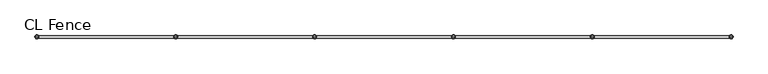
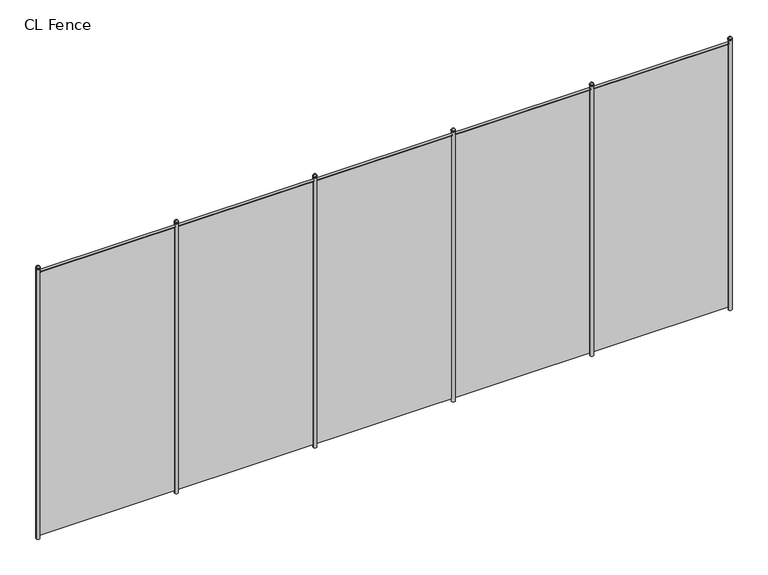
"""IFC4 building model written with IfcOpenShell, lengths in millimetres: geographic element geometry, Alambrado : CL Fence."""

import ifcopenshell
import ifcopenshell.guid

model = None  # the IFC model being written
_history = None  # IfcOwnerHistory: only IFC2X3 demands one
_inside = {}  # id of a spatial element -> (the spatial element, [elements in it])
_under = {}  # id of a project, library or spatial element -> (it, [spatial elements below it])
_declared = {}  # id of a project -> (the project, [libraries it declares])
_typed = {}  # id of a type object -> (the type object, [elements of that type])
_made_of = {}  # id of a material, layer set ... -> (it, [elements and type objects made of it])


def new_model(schema):
    """Start an empty IFC model of exactly this schema.

    Asked for "IFC4X3", IfcOpenShell would pick the latest addendum, in which some entities
    have other attributes; the version numbers below select the first issue.
    IFC2X3 requires an IfcOwnerHistory on every rooted entity: one is made here for all.
    """
    global model, _history
    if schema == "IFC4X3":
        model = ifcopenshell.file(schema_version=(4, 3, 0, 0))
    else:
        model = ifcopenshell.file(schema=schema)
    _inside.clear()
    _under.clear()
    _declared.clear()
    _typed.clear()
    _made_of.clear()
    _history = None
    if model.schema == "IFC2X3":
        org = make("IfcOrganization", Name="unknown")
        user = make(
            "IfcPersonAndOrganization",
            ThePerson=make("IfcPerson", FamilyName="unknown"),
            TheOrganization=org,
        )
        app = make(
            "IfcApplication",
            ApplicationDeveloper=org,
            Version="unknown",
            ApplicationFullName="unknown",
            ApplicationIdentifier="unknown",
        )
        _history = make(
            "IfcOwnerHistory",
            OwningUser=user,
            OwningApplication=app,
            ChangeAction="ADDED",
            CreationDate=0,
        )
    return model


def make(cls, **values):
    """One entity of the class cls with the attributes given. An attribute that is None is left unset."""
    return model.create_entity(
        cls, **{name: value for name, value in values.items() if value is not None}
    )


def rooted(cls, **values):
    """An entity with a GlobalId (a new one), such as an element, a storey or a relation."""
    return make(cls, GlobalId=ifcopenshell.guid.new(), OwnerHistory=_history, **values)


def si_unit(unit_type, name, prefix=None):
    """IfcSIUnit, for example si_unit("LENGTHUNIT", "METRE", prefix="MILLI")."""
    return make("IfcSIUnit", UnitType=unit_type, Prefix=prefix, Name=name)


def assignment(units):
    """IfcUnitAssignment: the units of a project."""
    return None if units is None else make("IfcUnitAssignment", Units=units)


def point(xyz):
    """IfcCartesianPoint."""
    return None if xyz is None else make("IfcCartesianPoint", Coordinates=xyz)


def direction(xyz):
    """IfcDirection."""
    return None if xyz is None else make("IfcDirection", DirectionRatios=xyz)


def frame(location, z_axis=None, x_axis=None):
    """IfcAxis2Placement3D, a coordinate frame: its origin and axes. An axis left out is left unset."""
    return make(
        "IfcAxis2Placement3D",
        Location=point(location),
        Axis=direction(z_axis),
        RefDirection=direction(x_axis),
    )


def frame_2d(location, x_axis=None):
    """IfcAxis2Placement2D, a coordinate frame in the plane: its origin and x axis."""
    return make(
        "IfcAxis2Placement2D", Location=point(location), RefDirection=direction(x_axis)
    )


def origin():
    """The frame at (0, 0, 0) with its axes left unset."""
    return frame((0.0, 0.0, 0.0))


def place(relative_to, where):
    """IfcLocalPlacement: puts the frame where relative to a parent placement (None: the world)."""
    return make(
        "IfcLocalPlacement", PlacementRelTo=relative_to, RelativePlacement=where
    )


def context(
    kind, dimensions, precision=None, world=None, true_north=None, identifier=None
):
    """IfcGeometricRepresentationContext, for example the 3D "Model" context."""
    return make(
        "IfcGeometricRepresentationContext",
        ContextIdentifier=identifier,
        ContextType=kind,
        CoordinateSpaceDimension=dimensions,
        Precision=precision,
        WorldCoordinateSystem=world,
        TrueNorth=true_north,
    )


def project(units=None, contexts=None):
    """IfcProject with its units and contexts."""
    return rooted(
        "IfcProject",
        Name="project",
        RepresentationContexts=contexts,
        UnitsInContext=assignment(units),
    )


def spatial(cls, under=None, at=None, **own):
    """A site, building, storey or space (cls), placed at a placement, below another one or the project."""
    s = rooted(cls, ObjectPlacement=at, **own)
    if under is not None:
        _under.setdefault(under.id(), (under, []))[1].append(s)
    return s


def polyline(points):
    """IfcPolyline through the points."""
    return make("IfcPolyline", Points=[point(p) for p in points])


def circle_curve(where, radius):
    """IfcCircle in the frame where."""
    return make("IfcCircle", Position=where, Radius=radius)


def ellipse_curve(where, semi_axis1, semi_axis2):
    """IfcEllipse in the frame where."""
    return make(
        "IfcEllipse", Position=where, SemiAxis1=semi_axis1, SemiAxis2=semi_axis2
    )


def trimmed(basis, trim1, trim2, sense, master):
    """IfcTrimmedCurve: the piece of a basis curve between two trims."""
    return make(
        "IfcTrimmedCurve",
        BasisCurve=basis,
        Trim1=trim1,
        Trim2=trim2,
        SenseAgreement=sense,
        MasterRepresentation=master,
    )


def segment(curve, same_sense, transition):
    """IfcCompositeCurveSegment."""
    return make(
        "IfcCompositeCurveSegment",
        Transition=transition,
        SameSense=same_sense,
        ParentCurve=curve,
    )


def composite_curve(segments, self_intersect=None):
    """IfcCompositeCurve: segments joined end to end."""
    return make("IfcCompositeCurve", Segments=segments, SelfIntersect=self_intersect)


def outline(outer, holes=None, kind="AREA"):
    """IfcArbitraryClosedProfileDef: a profile drawn as a closed curve; with holes, ...WithVoids."""
    if holes is None:
        return make("IfcArbitraryClosedProfileDef", ProfileType=kind, OuterCurve=outer)
    return make(
        "IfcArbitraryProfileDefWithVoids",
        ProfileType=kind,
        OuterCurve=outer,
        InnerCurves=holes,
    )


def extrude(swept, where, along, depth):
    """IfcExtrudedAreaSolid: the profile swept, set in the frame where, extruded along a direction by depth."""
    return make(
        "IfcExtrudedAreaSolid",
        SweptArea=swept,
        Position=where,
        ExtrudedDirection=direction(along),
        Depth=depth,
    )


def shape(context_of_items, identifier, shape_type, items):
    """IfcShapeRepresentation: the items that make up one representation, for example the "Body"."""
    return make(
        "IfcShapeRepresentation",
        ContextOfItems=context_of_items,
        RepresentationIdentifier=identifier,
        RepresentationType=shape_type,
        Items=items,
    )


def source(mapping_origin, context_of_items, identifier, shape_type, items):
    """IfcRepresentationMap: a shape defined once, which mapped items show again and again."""
    return make(
        "IfcRepresentationMap",
        MappingOrigin=mapping_origin,
        MappedRepresentation=shape(context_of_items, identifier, shape_type, items),
    )


def transform(
    local_origin,
    x_axis=None,
    y_axis=None,
    z_axis=None,
    scale=None,
    scale2=None,
    scale3=None,
    uniform=True,
):
    """IfcCartesianTransformationOperator3D, or its non-uniform kind. x_axis, y_axis, z_axis: its Axis1, 2, 3."""
    if uniform:
        return make(
            "IfcCartesianTransformationOperator3D",
            Axis1=direction(x_axis),
            Axis2=direction(y_axis),
            LocalOrigin=point(local_origin),
            Scale=scale,
            Axis3=direction(z_axis),
        )
    return make(
        "IfcCartesianTransformationOperator3DnonUniform",
        Axis1=direction(x_axis),
        Axis2=direction(y_axis),
        LocalOrigin=point(local_origin),
        Scale=scale,
        Axis3=direction(z_axis),
        Scale2=scale2,
        Scale3=scale3,
    )


def mapped(mapping_source, mapping_target):
    """IfcMappedItem: shows the shape of a source again, moved by a transform."""
    return make(
        "IfcMappedItem", MappingSource=mapping_source, MappingTarget=mapping_target
    )


def made_of(thing, what):
    """Note that an element or type object is made of a material, layer set ...; save() writes the relation."""
    if what is not None:
        _made_of.setdefault(what.id(), (what, []))[1].append(thing)
    return thing


def element(
    cls,
    number,
    at=None,
    inside=None,
    cuts=None,
    type_object=None,
    material=None,
    context=None,
    identifier="Body",
    shape_type=None,
    held_by="IfcProductDefinitionShape",
    body=None,
    shapes=None,
    **own,
):
    """One element of the class cls, such as IfcWall. Its Tag is "e" and its number.

    at: its placement. inside: the storey or other place that contains it. cuts: it is an
    opening in that element (IfcRelVoidsElement). A single representation is given by context,
    identifier, shape_type and body (its items); several are given by shapes. held_by: the class
    of the entity that holds the representations. save() writes the other relations.
    """
    e = rooted(cls, Tag="e%d" % number, ObjectPlacement=at, **own)
    if body is not None:
        shapes = [shape(context, identifier, shape_type, body)]
    if shapes is not None:
        e.Representation = make(held_by, Representations=shapes)
    if inside is not None:
        _inside.setdefault(inside.id(), (inside, []))[1].append(e)
    if cuts is not None:
        rooted(
            "IfcRelVoidsElement", RelatingBuildingElement=cuts, RelatedOpeningElement=e
        )
    if type_object is not None:
        _typed.setdefault(type_object.id(), (type_object, []))[1].append(e)
    return made_of(e, material)


def aggregate(whole, parts):
    """IfcRelAggregates: a whole, such as a stair, and the parts it consists of."""
    return rooted("IfcRelAggregates", RelatingObject=whole, RelatedObjects=parts)


def save(model, path):
    """Write the relations noted so far, then the file.

    IfcRelAggregates (storeys below a building ...), IfcRelContainedInSpatialStructure (elements
    in a storey), IfcRelDefinesByType, IfcRelAssociatesMaterial and IfcRelDeclares: one each for
    every whole, place, type object, material and project.
    """
    for whole, parts in _under.values():
        aggregate(whole, parts)
    for where, things in _inside.values():
        rooted(
            "IfcRelContainedInSpatialStructure",
            RelatedElements=things,
            RelatingStructure=where,
        )
    for kind, things in _typed.values():
        rooted("IfcRelDefinesByType", RelatedObjects=things, RelatingType=kind)
    for what, things in _made_of.values():
        rooted("IfcRelAssociatesMaterial", RelatedObjects=things, RelatingMaterial=what)
    for by, libraries in _declared.values():
        rooted("IfcRelDeclares", RelatingContext=by, RelatedDefinitions=libraries)
    model.write(path)


def plane_surface(at):
    """IfcPlane: the flat surface through the origin of the frame at, square to its z axis."""
    return make("IfcPlane", Position=at)


def cylinder_surface(at, radius):
    """IfcCylindricalSurface: all points at the distance radius from the z axis of the frame at."""
    return make("IfcCylindricalSurface", Position=at, Radius=radius)


def revolved_surface(curve, axis_point, axis_direction):
    """IfcSurfaceOfRevolution: the curve turned about the line through axis_point along axis_direction."""
    return make(
        "IfcSurfaceOfRevolution",
        SweptCurve=make("IfcArbitraryOpenProfileDef", ProfileType="CURVE", Curve=curve),
        AxisPosition=make("IfcAxis1Placement", Location=point(axis_point), Axis=direction(axis_direction)),
    )


def advanced_brep(points, edges, surfaces, faces):
    """IfcAdvancedBrep: a solid bounded by faces that lie on surfaces and meet in shared edges.

    An edge is (start, end): straight between two places in points (the first is 0);
    or (start, end, curve); or (start, end, curve, False) where it runs against its curve.
    A face is (place in surfaces, loops), or (place, loops, False) where it looks against
    its surface's normal. A loop lists edges by number (the first is 1), with a minus sign
    where the edge is run from its end to its start. The first loop is the outer one.
    """
    corners = [point(p) for p in points]
    vertices = [make("IfcVertexPoint", VertexGeometry=c) for c in corners]
    made = []
    for start, end, *more in edges:
        made.append(
            make(
                "IfcEdgeCurve",
                EdgeStart=vertices[start],
                EdgeEnd=vertices[end],
                EdgeGeometry=more[0] if more else make("IfcPolyline", Points=[corners[start], corners[end]]),
                SameSense=more[1] if len(more) > 1 else True,
            )
        )
    hull = []
    for where, loops, *sense in faces:
        bounds = []
        for j, loop in enumerate(loops):
            ring = [make("IfcOrientedEdge", EdgeElement=made[abs(k) - 1], Orientation=k > 0) for k in loop]
            bounds.append(
                make(
                    "IfcFaceOuterBound" if j == 0 else "IfcFaceBound",
                    Bound=make("IfcEdgeLoop", EdgeList=ring),
                    Orientation=True,
                )
            )
        hull.append(make("IfcAdvancedFace", Bounds=bounds, FaceSurface=surfaces[where], SameSense=sense[0] if sense else True))
    return make("IfcAdvancedBrep", Outer=make("IfcClosedShell", CfsFaces=hull))


def cl_fence_4927e294(model_context):
    return source(origin(), model_context, "Body", "SolidModel", [
        advanced_brep(
        [(9729.5068016, 0.0, 5055.5625), (9790.4931984, 0.0, 5055.5625), (9791.75, 0.0, 5055.5625), (9728.25, 0.0, 5055.5625), (9760.0, 0.0, 5086.0556984), (9728.25, 0.0, 5033.3375), (9791.75, 0.0, 5033.3375), (9760.0, 0.0, 5033.3375), (9728.25, 0.0, 5050.8), (9791.75, 0.0, 5050.8)],
        [
            (0, 1, circle_curve(frame((9760.0, 0.0, 5055.5625), z_axis=(0.0, 0.0, -1.0), x_axis=(1.0, 0.0, 0.0)), 30.4931984)),
            (1, 2),
            (2, 3, circle_curve(frame((9760.0, 0.0, 5055.5625), z_axis=(0.0, 0.0, 1.0), x_axis=(1.0, 0.0, 0.0)), 31.75)),
            (3, 0),
            (1, 0, circle_curve(frame((9760.0, 0.0, 5055.5625), z_axis=(0.0, 0.0, -1.0), x_axis=(1.0, 0.0, 0.0)), 30.4931984)),
            (3, 2, circle_curve(frame((9760.0, 0.0, 5055.5625), z_axis=(0.0, 0.0, 1.0), x_axis=(1.0, 0.0, 0.0)), 31.75)),
            (4, 1, circle_curve(frame((9753.1443328, 0.0, 5048.7068328), z_axis=(0.0, 1.0, 0.0), x_axis=(1.0, 0.0, 0.0)), 37.9728578)),
            (0, 4, circle_curve(frame((9766.8556672, 0.0, 5048.7068328), z_axis=(0.0, 1.0, 0.0), x_axis=(-1.0, 0.0, 0.0)), 37.9728578)),
            (5, 6, circle_curve(frame((9760.0, 0.0, 5033.3375), z_axis=(0.0, 0.0, -1.0), x_axis=(1.0, 0.0, 0.0)), 31.75)),
            (6, 7),
            (7, 5),
            (6, 5, circle_curve(frame((9760.0, 0.0, 5033.3375), z_axis=(0.0, 0.0, -1.0), x_axis=(1.0, 0.0, 0.0)), 31.75)),
            (8, 9, circle_curve(frame((9760.0, 0.0, 5050.8), z_axis=(0.0, 0.0, -1.0), x_axis=(1.0, 0.0, 0.0)), 31.75)),
            (9, 6),
            (5, 8),
            (9, 8, circle_curve(frame((9760.0, 0.0, 5050.8), z_axis=(0.0, 0.0, -1.0), x_axis=(1.0, 0.0, 0.0)), 31.75)),
            (2, 9, circle_curve(frame((9791.75, 0.0, 5053.18125), z_axis=(0.0, 1.0, 0.0), x_axis=(1.0, 0.0, 0.0)), 2.38125)),
            (8, 3, circle_curve(frame((9728.25, 0.0, 5053.18125), z_axis=(0.0, 1.0, 0.0), x_axis=(-1.0, 0.0, 0.0)), 2.38125)),
        ],
        [
            plane_surface(frame((9760.0, 0.0, 5055.5625), z_axis=(0.0, 0.0, 1.0), x_axis=(1.0, 0.0, 0.0))),
            revolved_surface(trimmed(ellipse_curve(frame((9753.1443328, 0.0, 5048.7068328), z_axis=(0.0, -1.0, 0.0), x_axis=(1.0, 0.0, 0.0)), 37.9728578, 37.9728578), [point((9790.4931984, 0.0, 5055.5625))], [point((9760.0, 0.0, 5086.0556984))], True, "CARTESIAN"), (9760.0, 0.0, 5112.7125), (0.0, 0.0, 1.0)),
            plane_surface(frame((9760.0, 0.0, 5033.3375), z_axis=(0.0, 0.0, -1.0), x_axis=(1.0, 0.0, 0.0))),
            cylinder_surface(frame((9760.0, 0.0, 5112.7125), z_axis=(0.0, 0.0, 1.0), x_axis=(1.0, 0.0, 0.0)), 31.75),
            revolved_surface(trimmed(ellipse_curve(frame((9791.75, 0.0, 5053.18125), z_axis=(0.0, -1.0, 0.0), x_axis=(1.0, 0.0, 0.0)), 2.38125, 2.38125), [point((9791.75, 0.0, 5050.8))], [point((9791.75, 0.0, 5055.5625))], True, "CARTESIAN"), (9760.0, 0.0, 5112.7125), (0.0, 0.0, 1.0)),
        ],
        [
            (0, [[1, 2, 3, 4]]),
            (0, [[5, -4, 6, -2]]),
            (1, [[7, -1, 8]]),
            (1, [[-8, -5, -7]]),
            (2, [[9, 10, 11]]),
            (2, [[12, -11, -10]]),
            (3, [[13, 14, -9, 15]]),
            (3, [[16, -15, -12, -14]]),
            (4, [[-3, 17, -13, 18]]),
            (4, [[-6, -18, -16, -17]]),
        ],
    ),
        advanced_brep(
        [(9760.0, 0.0, 5050.8), (9790.1625, 0.0, 5050.8), (9729.8375, 0.0, 5050.8), (9729.8375, 0.0, 0.0), (9790.1625, 0.0, 0.0), (9760.0, 0.0, 0.0)],
        [
            (0, 1),
            (1, 2, circle_curve(frame((9760.0, 0.0, 5050.8), z_axis=(0.0, 0.0, 1.0), x_axis=(1.0, 0.0, 0.0)), 30.1625)),
            (2, 0),
            (2, 1, circle_curve(frame((9760.0, 0.0, 5050.8), z_axis=(0.0, 0.0, 1.0), x_axis=(1.0, 0.0, 0.0)), 30.1625)),
            (3, 4, circle_curve(frame((9760.0, 0.0, 0.0), z_axis=(0.0, 0.0, -1.0), x_axis=(1.0, 0.0, 0.0)), 30.1625)),
            (4, 5),
            (5, 3),
            (4, 3, circle_curve(frame((9760.0, 0.0, 0.0), z_axis=(0.0, 0.0, -1.0), x_axis=(1.0, 0.0, 0.0)), 30.1625)),
            (1, 4),
            (3, 2),
        ],
        [
            plane_surface(frame((9760.0, 0.0, 5050.8), z_axis=(0.0, 0.0, 1.0), x_axis=(1.0, 0.0, 0.0))),
            plane_surface(frame((9760.0, 0.0, 0.0), z_axis=(0.0, 0.0, -1.0), x_axis=(1.0, 0.0, 0.0))),
            cylinder_surface(frame((9760.0, 0.0, 5101.6), z_axis=(0.0, 0.0, 1.0), x_axis=(1.0, 0.0, 0.0)), 30.1625),
        ],
        [
            (0, [[1, 2, 3]]),
            (0, [[-3, 4, -1]]),
            (1, [[5, 6, 7]]),
            (1, [[8, -7, -6]]),
            (2, [[-2, 9, -5, 10]]),
            (2, [[-4, -10, -8, -9]]),
        ],
    ),
        advanced_brep(
        [(7289.5068016, 0.0, 5055.5625), (7350.4931984, 0.0, 5055.5625), (7351.75, 0.0, 5055.5625), (7288.25, 0.0, 5055.5625), (7320.0, 0.0, 5086.0556984), (7288.25, 0.0, 5033.3375), (7351.75, 0.0, 5033.3375), (7320.0, 0.0, 5033.3375), (7288.25, 0.0, 5050.8), (7351.75, 0.0, 5050.8)],
        [
            (0, 1, circle_curve(frame((7320.0, 0.0, 5055.5625), z_axis=(0.0, 0.0, -1.0), x_axis=(1.0, 0.0, 0.0)), 30.4931984)),
            (1, 2),
            (2, 3, circle_curve(frame((7320.0, 0.0, 5055.5625), z_axis=(0.0, 0.0, 1.0), x_axis=(1.0, 0.0, 0.0)), 31.75)),
            (3, 0),
            (1, 0, circle_curve(frame((7320.0, 0.0, 5055.5625), z_axis=(0.0, 0.0, -1.0), x_axis=(1.0, 0.0, 0.0)), 30.4931984)),
            (3, 2, circle_curve(frame((7320.0, 0.0, 5055.5625), z_axis=(0.0, 0.0, 1.0), x_axis=(1.0, 0.0, 0.0)), 31.75)),
            (4, 1, circle_curve(frame((7313.1443328, 0.0, 5048.7068328), z_axis=(0.0, 1.0, 0.0), x_axis=(1.0, 0.0, 0.0)), 37.9728578)),
            (0, 4, circle_curve(frame((7326.8556672, 0.0, 5048.7068328), z_axis=(0.0, 1.0, 0.0), x_axis=(-1.0, 0.0, 0.0)), 37.9728578)),
            (5, 6, circle_curve(frame((7320.0, 0.0, 5033.3375), z_axis=(0.0, 0.0, -1.0), x_axis=(1.0, 0.0, 0.0)), 31.75)),
            (6, 7),
            (7, 5),
            (6, 5, circle_curve(frame((7320.0, 0.0, 5033.3375), z_axis=(0.0, 0.0, -1.0), x_axis=(1.0, 0.0, 0.0)), 31.75)),
            (8, 9, circle_curve(frame((7320.0, 0.0, 5050.8), z_axis=(0.0, 0.0, -1.0), x_axis=(1.0, 0.0, 0.0)), 31.75)),
            (9, 6),
            (5, 8),
            (9, 8, circle_curve(frame((7320.0, 0.0, 5050.8), z_axis=(0.0, 0.0, -1.0), x_axis=(1.0, 0.0, 0.0)), 31.75)),
            (2, 9, circle_curve(frame((7351.75, 0.0, 5053.18125), z_axis=(0.0, 1.0, 0.0), x_axis=(1.0, 0.0, 0.0)), 2.38125)),
            (8, 3, circle_curve(frame((7288.25, 0.0, 5053.18125), z_axis=(0.0, 1.0, 0.0), x_axis=(-1.0, 0.0, 0.0)), 2.38125)),
        ],
        [
            plane_surface(frame((7320.0, 0.0, 5055.5625), z_axis=(0.0, 0.0, 1.0), x_axis=(1.0, 0.0, 0.0))),
            revolved_surface(trimmed(ellipse_curve(frame((7313.1443328, 0.0, 5048.7068328), z_axis=(0.0, -1.0, 0.0), x_axis=(1.0, 0.0, 0.0)), 37.9728578, 37.9728578), [point((7350.4931984, 0.0, 5055.5625))], [point((7320.0, 0.0, 5086.0556984))], True, "CARTESIAN"), (7320.0, 0.0, 5112.7125), (0.0, 0.0, 1.0)),
            plane_surface(frame((7320.0, 0.0, 5033.3375), z_axis=(0.0, 0.0, -1.0), x_axis=(1.0, 0.0, 0.0))),
            cylinder_surface(frame((7320.0, 0.0, 5112.7125), z_axis=(0.0, 0.0, 1.0), x_axis=(1.0, 0.0, 0.0)), 31.75),
            revolved_surface(trimmed(ellipse_curve(frame((7351.75, 0.0, 5053.18125), z_axis=(0.0, -1.0, 0.0), x_axis=(1.0, 0.0, 0.0)), 2.38125, 2.38125), [point((7351.75, 0.0, 5050.8))], [point((7351.75, 0.0, 5055.5625))], True, "CARTESIAN"), (7320.0, 0.0, 5112.7125), (0.0, 0.0, 1.0)),
        ],
        [
            (0, [[1, 2, 3, 4]]),
            (0, [[5, -4, 6, -2]]),
            (1, [[7, -1, 8]]),
            (1, [[-8, -5, -7]]),
            (2, [[9, 10, 11]]),
            (2, [[12, -11, -10]]),
            (3, [[13, 14, -9, 15]]),
            (3, [[16, -15, -12, -14]]),
            (4, [[-3, 17, -13, 18]]),
            (4, [[-6, -18, -16, -17]]),
        ],
    ),
        advanced_brep(
        [(7320.0, 0.0, 5050.8), (7350.1625, 0.0, 5050.8), (7289.8375, 0.0, 5050.8), (7289.8375, 0.0, 0.0), (7350.1625, 0.0, 0.0), (7320.0, 0.0, 0.0)],
        [
            (0, 1),
            (1, 2, circle_curve(frame((7320.0, 0.0, 5050.8), z_axis=(0.0, 0.0, 1.0), x_axis=(1.0, 0.0, 0.0)), 30.1625)),
            (2, 0),
            (2, 1, circle_curve(frame((7320.0, 0.0, 5050.8), z_axis=(0.0, 0.0, 1.0), x_axis=(1.0, 0.0, 0.0)), 30.1625)),
            (3, 4, circle_curve(frame((7320.0, 0.0, 0.0), z_axis=(0.0, 0.0, -1.0), x_axis=(1.0, 0.0, 0.0)), 30.1625)),
            (4, 5),
            (5, 3),
            (4, 3, circle_curve(frame((7320.0, 0.0, 0.0), z_axis=(0.0, 0.0, -1.0), x_axis=(1.0, 0.0, 0.0)), 30.1625)),
            (1, 4),
            (3, 2),
        ],
        [
            plane_surface(frame((7320.0, 0.0, 5050.8), z_axis=(0.0, 0.0, 1.0), x_axis=(1.0, 0.0, 0.0))),
            plane_surface(frame((7320.0, 0.0, 0.0), z_axis=(0.0, 0.0, -1.0), x_axis=(1.0, 0.0, 0.0))),
            cylinder_surface(frame((7320.0, 0.0, 5101.6), z_axis=(0.0, 0.0, 1.0), x_axis=(1.0, 0.0, 0.0)), 30.1625),
        ],
        [
            (0, [[1, 2, 3]]),
            (0, [[-3, 4, -1]]),
            (1, [[5, 6, 7]]),
            (1, [[8, -7, -6]]),
            (2, [[-2, 9, -5, 10]]),
            (2, [[-4, -10, -8, -9]]),
        ],
    ),
        advanced_brep(
        [(4849.5068016, 0.0, 5055.5625), (4910.4931984, 0.0, 5055.5625), (4911.75, 0.0, 5055.5625), (4848.25, 0.0, 5055.5625), (4880.0, 0.0, 5086.0556984), (4848.25, 0.0, 5033.3375), (4911.75, 0.0, 5033.3375), (4880.0, 0.0, 5033.3375), (4848.25, 0.0, 5050.8), (4911.75, 0.0, 5050.8)],
        [
            (0, 1, circle_curve(frame((4880.0, 0.0, 5055.5625), z_axis=(0.0, 0.0, -1.0), x_axis=(1.0, 0.0, 0.0)), 30.4931984)),
            (1, 2),
            (2, 3, circle_curve(frame((4880.0, 0.0, 5055.5625), z_axis=(0.0, 0.0, 1.0), x_axis=(1.0, 0.0, 0.0)), 31.75)),
            (3, 0),
            (1, 0, circle_curve(frame((4880.0, 0.0, 5055.5625), z_axis=(0.0, 0.0, -1.0), x_axis=(1.0, 0.0, 0.0)), 30.4931984)),
            (3, 2, circle_curve(frame((4880.0, 0.0, 5055.5625), z_axis=(0.0, 0.0, 1.0), x_axis=(1.0, 0.0, 0.0)), 31.75)),
            (4, 1, circle_curve(frame((4873.1443328, 0.0, 5048.7068328), z_axis=(0.0, 1.0, 0.0), x_axis=(1.0, 0.0, 0.0)), 37.9728578)),
            (0, 4, circle_curve(frame((4886.8556672, 0.0, 5048.7068328), z_axis=(0.0, 1.0, 0.0), x_axis=(-1.0, 0.0, 0.0)), 37.9728578)),
            (5, 6, circle_curve(frame((4880.0, 0.0, 5033.3375), z_axis=(0.0, 0.0, -1.0), x_axis=(1.0, 0.0, 0.0)), 31.75)),
            (6, 7),
            (7, 5),
            (6, 5, circle_curve(frame((4880.0, 0.0, 5033.3375), z_axis=(0.0, 0.0, -1.0), x_axis=(1.0, 0.0, 0.0)), 31.75)),
            (8, 9, circle_curve(frame((4880.0, 0.0, 5050.8), z_axis=(0.0, 0.0, -1.0), x_axis=(1.0, 0.0, 0.0)), 31.75)),
            (9, 6),
            (5, 8),
            (9, 8, circle_curve(frame((4880.0, 0.0, 5050.8), z_axis=(0.0, 0.0, -1.0), x_axis=(1.0, 0.0, 0.0)), 31.75)),
            (2, 9, circle_curve(frame((4911.75, 0.0, 5053.18125), z_axis=(0.0, 1.0, 0.0), x_axis=(1.0, 0.0, 0.0)), 2.38125)),
            (8, 3, circle_curve(frame((4848.25, 0.0, 5053.18125), z_axis=(0.0, 1.0, 0.0), x_axis=(-1.0, 0.0, 0.0)), 2.38125)),
        ],
        [
            plane_surface(frame((4880.0, 0.0, 5055.5625), z_axis=(0.0, 0.0, 1.0), x_axis=(1.0, 0.0, 0.0))),
            revolved_surface(trimmed(ellipse_curve(frame((4873.1443328, 0.0, 5048.7068328), z_axis=(0.0, -1.0, 0.0), x_axis=(1.0, 0.0, 0.0)), 37.9728578, 37.9728578), [point((4910.4931984, 0.0, 5055.5625))], [point((4880.0, 0.0, 5086.0556984))], True, "CARTESIAN"), (4880.0, 0.0, 5112.7125), (0.0, 0.0, 1.0)),
            plane_surface(frame((4880.0, 0.0, 5033.3375), z_axis=(0.0, 0.0, -1.0), x_axis=(1.0, 0.0, 0.0))),
            cylinder_surface(frame((4880.0, 0.0, 5112.7125), z_axis=(0.0, 0.0, 1.0), x_axis=(1.0, 0.0, 0.0)), 31.75),
            revolved_surface(trimmed(ellipse_curve(frame((4911.75, 0.0, 5053.18125), z_axis=(0.0, -1.0, 0.0), x_axis=(1.0, 0.0, 0.0)), 2.38125, 2.38125), [point((4911.75, 0.0, 5050.8))], [point((4911.75, 0.0, 5055.5625))], True, "CARTESIAN"), (4880.0, 0.0, 5112.7125), (0.0, 0.0, 1.0)),
        ],
        [
            (0, [[1, 2, 3, 4]]),
            (0, [[5, -4, 6, -2]]),
            (1, [[7, -1, 8]]),
            (1, [[-8, -5, -7]]),
            (2, [[9, 10, 11]]),
            (2, [[12, -11, -10]]),
            (3, [[13, 14, -9, 15]]),
            (3, [[16, -15, -12, -14]]),
            (4, [[-3, 17, -13, 18]]),
            (4, [[-6, -18, -16, -17]]),
        ],
    ),
        advanced_brep(
        [(4880.0, 0.0, 5050.8), (4910.1625, 0.0, 5050.8), (4849.8375, 0.0, 5050.8), (4849.8375, 0.0, 0.0), (4910.1625, 0.0, 0.0), (4880.0, 0.0, 0.0)],
        [
            (0, 1),
            (1, 2, circle_curve(frame((4880.0, 0.0, 5050.8), z_axis=(0.0, 0.0, 1.0), x_axis=(1.0, 0.0, 0.0)), 30.1625)),
            (2, 0),
            (2, 1, circle_curve(frame((4880.0, 0.0, 5050.8), z_axis=(0.0, 0.0, 1.0), x_axis=(1.0, 0.0, 0.0)), 30.1625)),
            (3, 4, circle_curve(frame((4880.0, 0.0, 0.0), z_axis=(0.0, 0.0, -1.0), x_axis=(1.0, 0.0, 0.0)), 30.1625)),
            (4, 5),
            (5, 3),
            (4, 3, circle_curve(frame((4880.0, 0.0, 0.0), z_axis=(0.0, 0.0, -1.0), x_axis=(1.0, 0.0, 0.0)), 30.1625)),
            (1, 4),
            (3, 2),
        ],
        [
            plane_surface(frame((4880.0, 0.0, 5050.8), z_axis=(0.0, 0.0, 1.0), x_axis=(1.0, 0.0, 0.0))),
            plane_surface(frame((4880.0, 0.0, 0.0), z_axis=(0.0, 0.0, -1.0), x_axis=(1.0, 0.0, 0.0))),
            cylinder_surface(frame((4880.0, 0.0, 5101.6), z_axis=(0.0, 0.0, 1.0), x_axis=(1.0, 0.0, 0.0)), 30.1625),
        ],
        [
            (0, [[1, 2, 3]]),
            (0, [[-3, 4, -1]]),
            (1, [[5, 6, 7]]),
            (1, [[8, -7, -6]]),
            (2, [[-2, 9, -5, 10]]),
            (2, [[-4, -10, -8, -9]]),
        ],
    ),
        advanced_brep(
        [(2409.5068016, 0.0, 5055.5625), (2470.4931984, 0.0, 5055.5625), (2471.75, 0.0, 5055.5625), (2408.25, 0.0, 5055.5625), (2440.0, 0.0, 5086.0556984), (2408.25, 0.0, 5033.3375), (2471.75, 0.0, 5033.3375), (2440.0, 0.0, 5033.3375), (2408.25, 0.0, 5050.8), (2471.75, 0.0, 5050.8)],
        [
            (0, 1, circle_curve(frame((2440.0, 0.0, 5055.5625), z_axis=(0.0, 0.0, -1.0), x_axis=(1.0, 0.0, 0.0)), 30.4931984)),
            (1, 2),
            (2, 3, circle_curve(frame((2440.0, 0.0, 5055.5625), z_axis=(0.0, 0.0, 1.0), x_axis=(1.0, 0.0, 0.0)), 31.75)),
            (3, 0),
            (1, 0, circle_curve(frame((2440.0, 0.0, 5055.5625), z_axis=(0.0, 0.0, -1.0), x_axis=(1.0, 0.0, 0.0)), 30.4931984)),
            (3, 2, circle_curve(frame((2440.0, 0.0, 5055.5625), z_axis=(0.0, 0.0, 1.0), x_axis=(1.0, 0.0, 0.0)), 31.75)),
            (4, 1, circle_curve(frame((2433.1443328, 0.0, 5048.7068328), z_axis=(0.0, 1.0, 0.0), x_axis=(1.0, 0.0, 0.0)), 37.9728578)),
            (0, 4, circle_curve(frame((2446.8556672, 0.0, 5048.7068328), z_axis=(0.0, 1.0, 0.0), x_axis=(-1.0, 0.0, 0.0)), 37.9728578)),
            (5, 6, circle_curve(frame((2440.0, 0.0, 5033.3375), z_axis=(0.0, 0.0, -1.0), x_axis=(1.0, 0.0, 0.0)), 31.75)),
            (6, 7),
            (7, 5),
            (6, 5, circle_curve(frame((2440.0, 0.0, 5033.3375), z_axis=(0.0, 0.0, -1.0), x_axis=(1.0, 0.0, 0.0)), 31.75)),
            (8, 9, circle_curve(frame((2440.0, 0.0, 5050.8), z_axis=(0.0, 0.0, -1.0), x_axis=(1.0, 0.0, 0.0)), 31.75)),
            (9, 6),
            (5, 8),
            (9, 8, circle_curve(frame((2440.0, 0.0, 5050.8), z_axis=(0.0, 0.0, -1.0), x_axis=(1.0, 0.0, 0.0)), 31.75)),
            (2, 9, circle_curve(frame((2471.75, 0.0, 5053.18125), z_axis=(0.0, 1.0, 0.0), x_axis=(1.0, 0.0, 0.0)), 2.38125)),
            (8, 3, circle_curve(frame((2408.25, 0.0, 5053.18125), z_axis=(0.0, 1.0, 0.0), x_axis=(-1.0, 0.0, 0.0)), 2.38125)),
        ],
        [
            plane_surface(frame((2440.0, 0.0, 5055.5625), z_axis=(0.0, 0.0, 1.0), x_axis=(1.0, 0.0, 0.0))),
            revolved_surface(trimmed(ellipse_curve(frame((2433.1443328, 0.0, 5048.7068328), z_axis=(0.0, -1.0, 0.0), x_axis=(1.0, 0.0, 0.0)), 37.9728578, 37.9728578), [point((2470.4931984, 0.0, 5055.5625))], [point((2440.0, 0.0, 5086.0556984))], True, "CARTESIAN"), (2440.0, 0.0, 5112.7125), (0.0, 0.0, 1.0)),
            plane_surface(frame((2440.0, 0.0, 5033.3375), z_axis=(0.0, 0.0, -1.0), x_axis=(1.0, 0.0, 0.0))),
            cylinder_surface(frame((2440.0, 0.0, 5112.7125), z_axis=(0.0, 0.0, 1.0), x_axis=(1.0, 0.0, 0.0)), 31.75),
            revolved_surface(trimmed(ellipse_curve(frame((2471.75, 0.0, 5053.18125), z_axis=(0.0, -1.0, 0.0), x_axis=(1.0, 0.0, 0.0)), 2.38125, 2.38125), [point((2471.75, 0.0, 5050.8))], [point((2471.75, 0.0, 5055.5625))], True, "CARTESIAN"), (2440.0, 0.0, 5112.7125), (0.0, 0.0, 1.0)),
        ],
        [
            (0, [[1, 2, 3, 4]]),
            (0, [[5, -4, 6, -2]]),
            (1, [[7, -1, 8]]),
            (1, [[-8, -5, -7]]),
            (2, [[9, 10, 11]]),
            (2, [[12, -11, -10]]),
            (3, [[13, 14, -9, 15]]),
            (3, [[16, -15, -12, -14]]),
            (4, [[-3, 17, -13, 18]]),
            (4, [[-6, -18, -16, -17]]),
        ],
    ),
        advanced_brep(
        [(2440.0, 0.0, 5050.8), (2470.1625, 0.0, 5050.8), (2409.8375, 0.0, 5050.8), (2409.8375, 0.0, 0.0), (2470.1625, 0.0, 0.0), (2440.0, 0.0, 0.0)],
        [
            (0, 1),
            (1, 2, circle_curve(frame((2440.0, 0.0, 5050.8), z_axis=(0.0, 0.0, 1.0), x_axis=(1.0, 0.0, 0.0)), 30.1625)),
            (2, 0),
            (2, 1, circle_curve(frame((2440.0, 0.0, 5050.8), z_axis=(0.0, 0.0, 1.0), x_axis=(1.0, 0.0, 0.0)), 30.1625)),
            (3, 4, circle_curve(frame((2440.0, 0.0, 0.0), z_axis=(0.0, 0.0, -1.0), x_axis=(1.0, 0.0, 0.0)), 30.1625)),
            (4, 5),
            (5, 3),
            (4, 3, circle_curve(frame((2440.0, 0.0, 0.0), z_axis=(0.0, 0.0, -1.0), x_axis=(1.0, 0.0, 0.0)), 30.1625)),
            (1, 4),
            (3, 2),
        ],
        [
            plane_surface(frame((2440.0, 0.0, 5050.8), z_axis=(0.0, 0.0, 1.0), x_axis=(1.0, 0.0, 0.0))),
            plane_surface(frame((2440.0, 0.0, 0.0), z_axis=(0.0, 0.0, -1.0), x_axis=(1.0, 0.0, 0.0))),
            cylinder_surface(frame((2440.0, 0.0, 5101.6), z_axis=(0.0, 0.0, 1.0), x_axis=(1.0, 0.0, 0.0)), 30.1625),
        ],
        [
            (0, [[1, 2, 3]]),
            (0, [[-3, 4, -1]]),
            (1, [[5, 6, 7]]),
            (1, [[8, -7, -6]]),
            (2, [[-2, 9, -5, 10]]),
            (2, [[-4, -10, -8, -9]]),
        ],
    ),
        advanced_brep(
        [(12169.5068016, 0.0, 5055.5625), (12230.4931984, 0.0, 5055.5625), (12231.75, 0.0, 5055.5625), (12168.25, 0.0, 5055.5625), (12200.0, 0.0, 5086.0556984), (12168.25, 0.0, 5033.3375), (12231.75, 0.0, 5033.3375), (12200.0, 0.0, 5033.3375), (12168.25, 0.0, 5050.8), (12231.75, 0.0, 5050.8)],
        [
            (0, 1, circle_curve(frame((12200.0, 0.0, 5055.5625), z_axis=(0.0, 0.0, -1.0), x_axis=(1.0, 0.0, 0.0)), 30.4931984)),
            (1, 2),
            (2, 3, circle_curve(frame((12200.0, 0.0, 5055.5625), z_axis=(0.0, 0.0, 1.0), x_axis=(1.0, 0.0, 0.0)), 31.75)),
            (3, 0),
            (1, 0, circle_curve(frame((12200.0, 0.0, 5055.5625), z_axis=(0.0, 0.0, -1.0), x_axis=(1.0, 0.0, 0.0)), 30.4931984)),
            (3, 2, circle_curve(frame((12200.0, 0.0, 5055.5625), z_axis=(0.0, 0.0, 1.0), x_axis=(1.0, 0.0, 0.0)), 31.75)),
            (4, 1, circle_curve(frame((12193.1443328, 0.0, 5048.7068328), z_axis=(0.0, 1.0, 0.0), x_axis=(1.0, 0.0, 0.0)), 37.9728578)),
            (0, 4, circle_curve(frame((12206.8556672, 0.0, 5048.7068328), z_axis=(0.0, 1.0, 0.0), x_axis=(-1.0, 0.0, 0.0)), 37.9728578)),
            (5, 6, circle_curve(frame((12200.0, 0.0, 5033.3375), z_axis=(0.0, 0.0, -1.0), x_axis=(1.0, 0.0, 0.0)), 31.75)),
            (6, 7),
            (7, 5),
            (6, 5, circle_curve(frame((12200.0, 0.0, 5033.3375), z_axis=(0.0, 0.0, -1.0), x_axis=(1.0, 0.0, 0.0)), 31.75)),
            (8, 9, circle_curve(frame((12200.0, 0.0, 5050.8), z_axis=(0.0, 0.0, -1.0), x_axis=(1.0, 0.0, 0.0)), 31.75)),
            (9, 6),
            (5, 8),
            (9, 8, circle_curve(frame((12200.0, 0.0, 5050.8), z_axis=(0.0, 0.0, -1.0), x_axis=(1.0, 0.0, 0.0)), 31.75)),
            (2, 9, circle_curve(frame((12231.75, 0.0, 5053.18125), z_axis=(0.0, 1.0, 0.0), x_axis=(1.0, 0.0, 0.0)), 2.38125)),
            (8, 3, circle_curve(frame((12168.25, 0.0, 5053.18125), z_axis=(0.0, 1.0, 0.0), x_axis=(-1.0, 0.0, 0.0)), 2.38125)),
        ],
        [
            plane_surface(frame((12200.0, 0.0, 5055.5625), z_axis=(0.0, 0.0, 1.0), x_axis=(1.0, 0.0, 0.0))),
            revolved_surface(trimmed(ellipse_curve(frame((12193.1443328, 0.0, 5048.7068328), z_axis=(0.0, -1.0, 0.0), x_axis=(1.0, 0.0, 0.0)), 37.9728578, 37.9728578), [point((12230.4931984, 0.0, 5055.5625))], [point((12200.0, 0.0, 5086.0556984))], True, "CARTESIAN"), (12200.0, 0.0, 5112.7125), (0.0, 0.0, 1.0)),
            plane_surface(frame((12200.0, 0.0, 5033.3375), z_axis=(0.0, 0.0, -1.0), x_axis=(1.0, 0.0, 0.0))),
            cylinder_surface(frame((12200.0, 0.0, 5112.7125), z_axis=(0.0, 0.0, 1.0), x_axis=(1.0, 0.0, 0.0)), 31.75),
            revolved_surface(trimmed(ellipse_curve(frame((12231.75, 0.0, 5053.18125), z_axis=(0.0, -1.0, 0.0), x_axis=(1.0, 0.0, 0.0)), 2.38125, 2.38125), [point((12231.75, 0.0, 5050.8))], [point((12231.75, 0.0, 5055.5625))], True, "CARTESIAN"), (12200.0, 0.0, 5112.7125), (0.0, 0.0, 1.0)),
        ],
        [
            (0, [[1, 2, 3, 4]]),
            (0, [[5, -4, 6, -2]]),
            (1, [[7, -1, 8]]),
            (1, [[-8, -5, -7]]),
            (2, [[9, 10, 11]]),
            (2, [[12, -11, -10]]),
            (3, [[13, 14, -9, 15]]),
            (3, [[16, -15, -12, -14]]),
            (4, [[-3, 17, -13, 18]]),
            (4, [[-6, -18, -16, -17]]),
        ],
    ),
        advanced_brep(
        [(12200.0, 0.0, 5050.8), (12230.1625, 0.0, 5050.8), (12169.8375, 0.0, 5050.8), (12169.8375, 0.0, 0.0), (12230.1625, 0.0, 0.0), (12200.0, 0.0, 0.0)],
        [
            (0, 1),
            (1, 2, circle_curve(frame((12200.0, 0.0, 5050.8), z_axis=(0.0, 0.0, 1.0), x_axis=(1.0, 0.0, 0.0)), 30.1625)),
            (2, 0),
            (2, 1, circle_curve(frame((12200.0, 0.0, 5050.8), z_axis=(0.0, 0.0, 1.0), x_axis=(1.0, 0.0, 0.0)), 30.1625)),
            (3, 4, circle_curve(frame((12200.0, 0.0, 0.0), z_axis=(0.0, 0.0, -1.0), x_axis=(1.0, 0.0, 0.0)), 30.1625)),
            (4, 5),
            (5, 3),
            (4, 3, circle_curve(frame((12200.0, 0.0, 0.0), z_axis=(0.0, 0.0, -1.0), x_axis=(1.0, 0.0, 0.0)), 30.1625)),
            (1, 4),
            (3, 2),
        ],
        [
            plane_surface(frame((12200.0, 0.0, 5050.8), z_axis=(0.0, 0.0, 1.0), x_axis=(1.0, 0.0, 0.0))),
            plane_surface(frame((12200.0, 0.0, 0.0), z_axis=(0.0, 0.0, -1.0), x_axis=(1.0, 0.0, 0.0))),
            cylinder_surface(frame((12200.0, 0.0, 5101.6), z_axis=(0.0, 0.0, 1.0), x_axis=(1.0, 0.0, 0.0)), 30.1625),
        ],
        [
            (0, [[1, 2, 3]]),
            (0, [[-3, 4, -1]]),
            (1, [[5, 6, 7]]),
            (1, [[8, -7, -6]]),
            (2, [[-2, 9, -5, 10]]),
            (2, [[-4, -10, -8, -9]]),
        ],
    ),
        advanced_brep(
        [(-30.4931984, 0.0, 5055.5625), (30.4931984, 0.0, 5055.5625), (31.75, 0.0, 5055.5625), (-31.75, 0.0, 5055.5625), (0.0, 0.0, 5086.0556984), (-31.75, 0.0, 5033.3375), (31.75, 0.0, 5033.3375), (0.0, 0.0, 5033.3375), (-31.75, 0.0, 5050.8), (31.75, 0.0, 5050.8)],
        [
            (0, 1, circle_curve(frame((0.0, 0.0, 5055.5625), z_axis=(0.0, 0.0, -1.0), x_axis=(1.0, 0.0, 0.0)), 30.4931984)),
            (1, 2),
            (2, 3, circle_curve(frame((0.0, 0.0, 5055.5625), z_axis=(0.0, 0.0, 1.0), x_axis=(1.0, 0.0, 0.0)), 31.75)),
            (3, 0),
            (1, 0, circle_curve(frame((0.0, 0.0, 5055.5625), z_axis=(0.0, 0.0, -1.0), x_axis=(1.0, 0.0, 0.0)), 30.4931984)),
            (3, 2, circle_curve(frame((0.0, 0.0, 5055.5625), z_axis=(0.0, 0.0, 1.0), x_axis=(1.0, 0.0, 0.0)), 31.75)),
            (4, 1, circle_curve(frame((-6.8556672, 0.0, 5048.7068328), z_axis=(0.0, 1.0, 0.0), x_axis=(1.0, 0.0, 0.0)), 37.9728578)),
            (0, 4, circle_curve(frame((6.8556672, 0.0, 5048.7068328), z_axis=(0.0, 1.0, 0.0), x_axis=(-1.0, 0.0, 0.0)), 37.9728578)),
            (5, 6, circle_curve(frame((0.0, 0.0, 5033.3375), z_axis=(0.0, 0.0, -1.0), x_axis=(1.0, 0.0, 0.0)), 31.75)),
            (6, 7),
            (7, 5),
            (6, 5, circle_curve(frame((0.0, 0.0, 5033.3375), z_axis=(0.0, 0.0, -1.0), x_axis=(1.0, 0.0, 0.0)), 31.75)),
            (8, 9, circle_curve(frame((0.0, 0.0, 5050.8), z_axis=(0.0, 0.0, -1.0), x_axis=(1.0, 0.0, 0.0)), 31.75)),
            (9, 6),
            (5, 8),
            (9, 8, circle_curve(frame((0.0, 0.0, 5050.8), z_axis=(0.0, 0.0, -1.0), x_axis=(1.0, 0.0, 0.0)), 31.75)),
            (2, 9, circle_curve(frame((31.75, 0.0, 5053.18125), z_axis=(0.0, 1.0, 0.0), x_axis=(1.0, 0.0, 0.0)), 2.38125)),
            (8, 3, circle_curve(frame((-31.75, 0.0, 5053.18125), z_axis=(0.0, 1.0, 0.0), x_axis=(-1.0, 0.0, 0.0)), 2.38125)),
        ],
        [
            plane_surface(frame((0.0, 0.0, 5055.5625), z_axis=(0.0, 0.0, 1.0), x_axis=(1.0, 0.0, 0.0))),
            revolved_surface(trimmed(ellipse_curve(frame((-6.8556672, 0.0, 5048.7068328), z_axis=(0.0, -1.0, 0.0), x_axis=(1.0, 0.0, 0.0)), 37.9728578, 37.9728578), [point((30.4931984, 0.0, 5055.5625))], [point((0.0, 0.0, 5086.0556984))], True, "CARTESIAN"), (0.0, 0.0, 5112.7125), (0.0, 0.0, 1.0)),
            plane_surface(frame((0.0, 0.0, 5033.3375), z_axis=(0.0, 0.0, -1.0), x_axis=(1.0, 0.0, 0.0))),
            cylinder_surface(frame((0.0, 0.0, 5112.7125), z_axis=(0.0, 0.0, 1.0), x_axis=(1.0, 0.0, 0.0)), 31.75),
            revolved_surface(trimmed(ellipse_curve(frame((31.75, 0.0, 5053.18125), z_axis=(0.0, -1.0, 0.0), x_axis=(1.0, 0.0, 0.0)), 2.38125, 2.38125), [point((31.75, 0.0, 5050.8))], [point((31.75, 0.0, 5055.5625))], True, "CARTESIAN"), (0.0, 0.0, 5112.7125), (0.0, 0.0, 1.0)),
        ],
        [
            (0, [[1, 2, 3, 4]]),
            (0, [[5, -4, 6, -2]]),
            (1, [[7, -1, 8]]),
            (1, [[-8, -5, -7]]),
            (2, [[9, 10, 11]]),
            (2, [[12, -11, -10]]),
            (3, [[13, 14, -9, 15]]),
            (3, [[16, -15, -12, -14]]),
            (4, [[-3, 17, -13, 18]]),
            (4, [[-6, -18, -16, -17]]),
        ],
    ),
        advanced_brep(
        [(0.0, 0.0, 5050.8), (30.1625, 0.0, 5050.8), (-30.1625, 0.0, 5050.8), (-30.1625, 0.0, 0.0), (30.1625, 0.0, 0.0), (0.0, 0.0, 0.0)],
        [
            (0, 1),
            (1, 2, circle_curve(frame((0.0, 0.0, 5050.8), z_axis=(0.0, 0.0, 1.0), x_axis=(1.0, 0.0, 0.0)), 30.1625)),
            (2, 0),
            (2, 1, circle_curve(frame((0.0, 0.0, 5050.8), z_axis=(0.0, 0.0, 1.0), x_axis=(1.0, 0.0, 0.0)), 30.1625)),
            (3, 4, circle_curve(frame((0.0, 0.0, 0.0), z_axis=(0.0, 0.0, -1.0), x_axis=(1.0, 0.0, 0.0)), 30.1625)),
            (4, 5),
            (5, 3),
            (4, 3, circle_curve(frame((0.0, 0.0, 0.0), z_axis=(0.0, 0.0, -1.0), x_axis=(1.0, 0.0, 0.0)), 30.1625)),
            (1, 4),
            (3, 2),
        ],
        [
            plane_surface(frame((0.0, 0.0, 5050.8), z_axis=(0.0, 0.0, 1.0), x_axis=(1.0, 0.0, 0.0))),
            plane_surface(frame((0.0, 0.0, 0.0), z_axis=(0.0, 0.0, -1.0), x_axis=(1.0, 0.0, 0.0))),
            cylinder_surface(frame((0.0, 0.0, 5101.6), z_axis=(0.0, 0.0, 1.0), x_axis=(1.0, 0.0, 0.0)), 30.1625),
        ],
        [
            (0, [[1, 2, 3]]),
            (0, [[-3, 4, -1]]),
            (1, [[5, 6, 7]]),
            (1, [[8, -7, -6]]),
            (2, [[-2, 9, -5, 10]]),
            (2, [[-4, -10, -8, -9]]),
        ],
    ),
        extrude(outline(composite_curve([segment(trimmed(circle_curve(frame_2d((0.0, 4979.3625)), 20.6375), [point((-20.6375, 4979.3625))], [point((20.6375, 4979.3625))], False, "CARTESIAN"), True, "CONTINUOUS"), segment(trimmed(circle_curve(frame_2d((0.0, 4979.3625)), 20.6375), [point((20.6375, 4979.3625))], [point((-20.6375, 4979.3625))], False, "CARTESIAN"), True, "CONTINUOUS")], self_intersect=False)), frame((30.1625, 0.0, 0.0), z_axis=(1.0, 0.0, 0.0), x_axis=(0.0, 1.0, 0.0)), (0.0, 0.0, 1.0), 12139.675),
        extrude(outline(polyline([(12169.8375, 1.5875), (12169.8375, -1.5875), (30.1625, -1.5875), (30.1625, 1.5875), (12169.8375, 1.5875)])), frame((0.0, 0.0, 50.8), z_axis=(0.0, 0.0, 1.0), x_axis=(1.0, 0.0, 0.0)), (0.0, 0.0, 1.0), 4928.5625),
    ])


if __name__ == "__main__":
    model = new_model("IFC4")
    model_context = context("Model", 3, world=origin())
    ifc_project = project(units=[si_unit("LENGTHUNIT", "METRE", prefix="MILLI")], contexts=[model_context])
    site = spatial("IfcSite", under=ifc_project)
    building = spatial("IfcBuilding", under=site)
    placement = place(None, origin())
    cl_fence_shape = cl_fence_4927e294(model_context)
    element("IfcGeographicElement", 1, ObjectType="Alambrado : CL Fence", at=placement, inside=building, context=model_context, shape_type="MappedRepresentation", body=[
        mapped(cl_fence_shape, transform((0.0, 0.0, 0.0), x_axis=(1.0, 0.0, 0.0), y_axis=(0.0, 1.0, 0.0), z_axis=(0.0, 0.0, 1.0))),
    ])
    save(model, "model.ifc")
